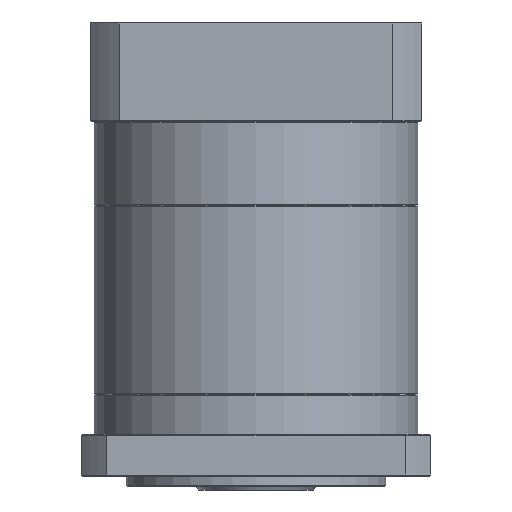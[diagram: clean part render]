
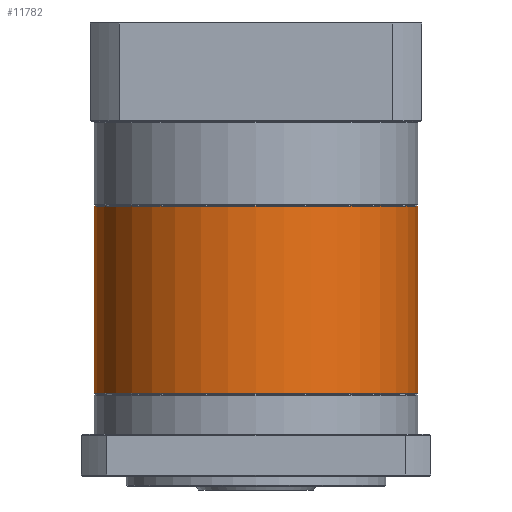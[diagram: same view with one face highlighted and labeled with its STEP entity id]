
A CAD part, front view. The second image highlights one B-rep face of the part: STEP entity #11782.
In plain terms, the highlighted cylindrical face has radius 81 mm (diameter 162 mm), a partial arc.
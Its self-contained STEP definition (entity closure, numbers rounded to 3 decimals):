
#4029 = EDGE_CURVE ( 'NONE', #90867, #117403, #56518, .T. ) ;
#11179 = EDGE_CURVE ( 'NONE', #37831, #90867, #16525, .T. ) ;
#11782 = ADVANCED_FACE ( 'NONE', ( #49746 ), #121151, .T. ) ;
#12291 = DIRECTION ( 'NONE',  ( 0., 0., -1. ) ) ;
#14431 = CARTESIAN_POINT ( 'NONE',  ( -87.479, 83.421, -63.079 ) ) ;
#16525 = LINE ( 'NONE', #29279, #59732 ) ;
#24193 = DIRECTION ( 'NONE',  ( -1., 0., 0. ) ) ;
#29279 = CARTESIAN_POINT ( 'NONE',  ( -168.479, 83.421, -62.579 ) ) ;
#30194 = DIRECTION ( 'NONE',  ( 0., 0., 1. ) ) ;
#32766 = CARTESIAN_POINT ( 'NONE',  ( -6.479, 83.421, -63.079 ) ) ;
#36563 = ORIENTED_EDGE ( 'NONE', *, *, #11179, .T. ) ;
#37831 = VERTEX_POINT ( 'NONE', #96789 ) ;
#41230 = AXIS2_PLACEMENT_3D ( 'NONE', #14431, #54133, #112573 ) ;
#42162 = DIRECTION ( 'NONE',  ( 0., 0., -1. ) ) ;
#49746 = FACE_OUTER_BOUND ( 'NONE', #107442, .T. ) ;
#50244 = DIRECTION ( 'NONE',  ( 0., 0., -1. ) ) ;
#50483 = DIRECTION ( 'NONE',  ( -1., 0., 0. ) ) ;
#53749 = CARTESIAN_POINT ( 'NONE',  ( -168.479, 83.421, -156.579 ) ) ;
#54133 = DIRECTION ( 'NONE',  ( 0., 0., -1. ) ) ;
#56518 = CIRCLE ( 'NONE', #110493, 81. ) ;
#59732 = VECTOR ( 'NONE', #42162, 1000. ) ;
#69423 = ORIENTED_EDGE ( 'NONE', *, *, #95720, .F. ) ;
#70983 = VERTEX_POINT ( 'NONE', #32766 ) ;
#76407 = EDGE_CURVE ( 'NONE', #70983, #37831, #114904, .T. ) ;
#80985 = CARTESIAN_POINT ( 'NONE',  ( -87.479, 83.421, -62.579 ) ) ;
#81938 = AXIS2_PLACEMENT_3D ( 'NONE', #80985, #50244, #24193 ) ;
#87144 = VECTOR ( 'NONE', #12291, 1000. ) ;
#89809 = ORIENTED_EDGE ( 'NONE', *, *, #76407, .T. ) ;
#90867 = VERTEX_POINT ( 'NONE', #53749 ) ;
#95720 = EDGE_CURVE ( 'NONE', #70983, #117403, #113449, .T. ) ;
#96789 = CARTESIAN_POINT ( 'NONE',  ( -168.479, 83.421, -63.079 ) ) ;
#107442 = EDGE_LOOP ( 'NONE', ( #69423, #89809, #36563, #122628 ) ) ;
#110493 = AXIS2_PLACEMENT_3D ( 'NONE', #118508, #30194, #50483 ) ;
#112573 = DIRECTION ( 'NONE',  ( -1., 0., 0. ) ) ;
#113449 = LINE ( 'NONE', #120890, #87144 ) ;
#114904 = CIRCLE ( 'NONE', #41230, 81. ) ;
#117053 = CARTESIAN_POINT ( 'NONE',  ( -6.479, 83.421, -156.579 ) ) ;
#117403 = VERTEX_POINT ( 'NONE', #117053 ) ;
#118508 = CARTESIAN_POINT ( 'NONE',  ( -87.479, 83.421, -156.579 ) ) ;
#120890 = CARTESIAN_POINT ( 'NONE',  ( -6.479, 83.421, -62.579 ) ) ;
#121151 = CYLINDRICAL_SURFACE ( 'NONE', #81938, 81. ) ;
#122628 = ORIENTED_EDGE ( 'NONE', *, *, #4029, .T. ) ;
